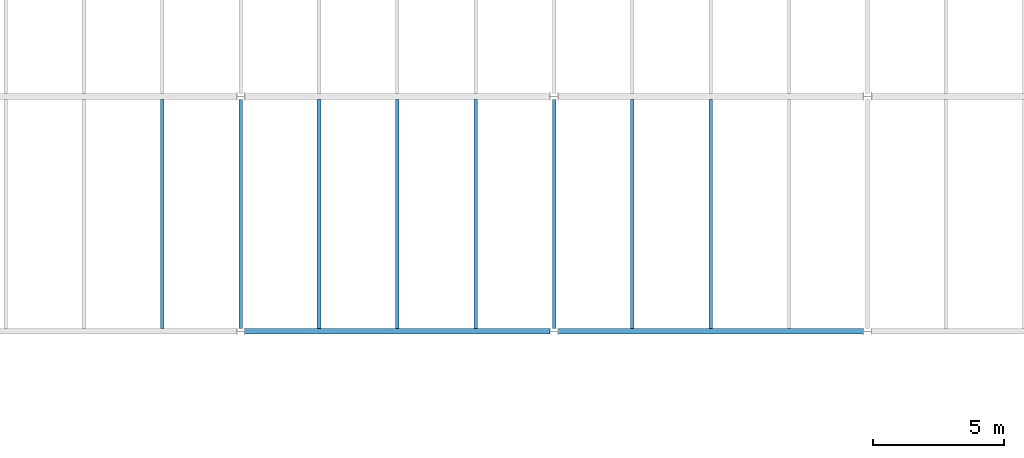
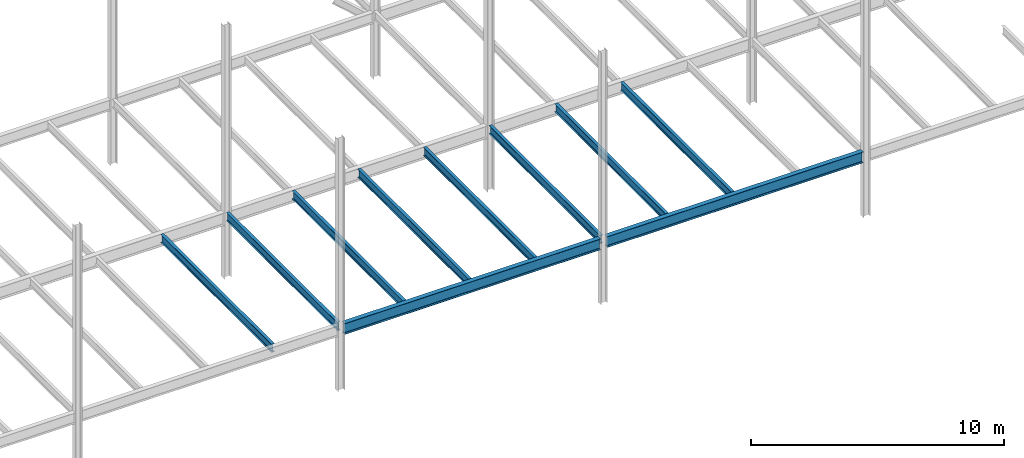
# One storey, part 19 of 26: 10 beams.
"""IFC2X3 building model written with IfcOpenShell, lengths in millimetres."""

from ifc_helpers import new_model, si_unit, origin, place, context, project, spatial, faceted_brep, material, element, save


model = new_model("IFC2X3")

# Units and contexts
context_of_model = context(None, 3, precision=1e-05, world=origin())
ifc_project = project(units=[si_unit("LENGTHUNIT", "METRE", prefix="MILLI")], contexts=[context_of_model])

# Building, storey
building = spatial("IfcBuilding", under=ifc_project, Name="Building", CompositionType="ELEMENT")
storey = spatial("IfcBuildingStorey", under=building, Name="FL4-FRM", CompositionType="ELEMENT")

# Beams
ifc_material_1 = material(Name="A992")
beam_1_placement = place(None, origin())
element("IfcBeam", 1, at=beam_1_placement, inside=storey, material=ifc_material_1, Name="B220", context=context_of_model, shape_type="Brep", body=[
    faceted_brep([(45070.0, 9104.5, 12974.0), (44930.0, 9104.5, 12974.0), (44930.0, 17885.5, 12974.0), (45070.0, 17885.5, 12974.0), (44930.0, 9104.5, 12982.8), (44930.0, 17885.5, 12982.8), (44986.6, 9104.5, 12982.8), (44986.6, 17885.5, 12982.8), (44989.2, 9104.5, 12983.1), (44989.2, 17885.5, 12983.1), (44991.7, 9104.5, 12984.2), (44991.7, 17885.5, 12984.2), (44993.8, 9104.5, 12985.8), (44993.8, 17885.5, 12985.8), (44995.4, 9104.5, 12987.9), (44995.4, 17885.5, 12987.9), (44996.5, 9104.5, 12990.4), (44996.5, 17885.5, 12990.4), (44996.8, 9104.5, 12993.0), (44996.8, 17885.5, 12993.0), (44996.8, 9104.5, 13354.0), (44996.8, 17885.5, 13354.0), (44996.5, 9104.5, 13356.6), (44996.5, 17885.5, 13356.6), (44995.4, 9104.5, 13359.1), (44995.4, 17885.5, 13359.1), (44993.8, 9104.5, 13361.2), (44993.8, 17885.5, 13361.2), (44991.7, 9104.5, 13362.8), (44991.7, 17885.5, 13362.8), (44989.2, 9104.5, 13363.9), (44989.2, 17885.5, 13363.9), (44986.6, 9104.5, 13364.2), (44986.6, 17885.5, 13364.2), (44930.0, 9104.5, 13364.2), (44930.0, 17885.5, 13364.2), (44930.0, 9104.5, 13373.0), (44930.0, 17885.5, 13373.0), (45070.0, 9104.5, 13373.0), (45070.0, 17885.5, 13373.0), (45070.0, 9104.5, 13364.2), (45070.0, 17885.5, 13364.2), (45013.4, 9104.5, 13364.2), (45013.4, 17885.5, 13364.2), (45010.8, 9104.5, 13363.9), (45010.8, 17885.5, 13363.9), (45008.3, 9104.5, 13362.8), (45008.3, 17885.5, 13362.8), (45006.2, 9104.5, 13361.2), (45006.2, 17885.5, 13361.2), (45004.6, 9104.5, 13359.1), (45004.6, 17885.5, 13359.1), (45003.5, 9104.5, 13356.6), (45003.5, 17885.5, 13356.6), (45003.2, 9104.5, 13354.0), (45003.2, 17885.5, 13354.0), (45003.2, 9104.5, 12993.0), (45003.2, 17885.5, 12993.0), (45003.5, 9104.5, 12990.4), (45003.5, 17885.5, 12990.4), (45004.6, 9104.5, 12987.9), (45004.6, 17885.5, 12987.9), (45006.2, 9104.5, 12985.8), (45006.2, 17885.5, 12985.8), (45008.3, 9104.5, 12984.2), (45008.3, 17885.5, 12984.2), (45010.8, 9104.5, 12983.1), (45010.8, 17885.5, 12983.1), (45013.4, 9104.5, 12982.8), (45013.4, 17885.5, 12982.8), (45070.0, 9104.5, 12982.8), (45070.0, 17885.5, 12982.8)], [[[0, 1, 2, 3]], [[1, 4, 5, 2]], [[4, 6, 7, 5]], [[6, 8, 9, 7]], [[8, 10, 11, 9]], [[10, 12, 13, 11]], [[12, 14, 15, 13]], [[14, 16, 17, 15]], [[16, 18, 19, 17]], [[18, 20, 21, 19]], [[20, 22, 23, 21]], [[22, 24, 25, 23]], [[24, 26, 27, 25]], [[26, 28, 29, 27]], [[28, 30, 31, 29]], [[30, 32, 33, 31]], [[32, 34, 35, 33]], [[34, 36, 37, 35]], [[36, 38, 39, 37]], [[38, 40, 41, 39]], [[40, 42, 43, 41]], [[42, 44, 45, 43]], [[44, 46, 47, 45]], [[46, 48, 49, 47]], [[48, 50, 51, 49]], [[50, 52, 53, 51]], [[52, 54, 55, 53]], [[54, 56, 57, 55]], [[56, 58, 59, 57]], [[58, 60, 61, 59]], [[60, 62, 63, 61]], [[62, 64, 65, 63]], [[64, 66, 67, 65]], [[66, 68, 69, 67]], [[68, 70, 71, 69]], [[70, 0, 3, 71]], [[0, 70, 68, 66, 64, 62, 60, 58, 56, 54, 52, 50, 48, 46, 44, 42, 40, 38, 36, 34, 32, 30, 28, 26, 24, 22, 20, 18, 16, 14, 12, 10, 8, 6, 4, 1]], [[3, 2, 5, 7, 9, 11, 13, 15, 17, 19, 21, 23, 25, 27, 29, 31, 33, 35, 37, 39, 41, 43, 45, 47, 49, 51, 53, 55, 57, 59, 61, 63, 65, 67, 69, 71]]]),
])
ifc_material_2 = material(Name="A992")
beam_2_placement = place(None, origin())
element("IfcBeam", 2, at=beam_2_placement, inside=storey, material=ifc_material_2, Name="B226", context=context_of_model, shape_type="Brep", body=[
    faceted_brep([(51070.0, 9104.5, 12974.0), (50930.0, 9104.5, 12974.0), (50930.0, 17885.5, 12974.0), (51070.0, 17885.5, 12974.0), (50930.0, 9104.5, 12982.8), (50930.0, 17885.5, 12982.8), (50986.6, 9104.5, 12982.8), (50986.6, 17885.5, 12982.8), (50989.2, 9104.5, 12983.1), (50989.2, 17885.5, 12983.1), (50991.7, 9104.5, 12984.2), (50991.7, 17885.5, 12984.2), (50993.8, 9104.5, 12985.8), (50993.8, 17885.5, 12985.8), (50995.4, 9104.5, 12987.9), (50995.4, 17885.5, 12987.9), (50996.5, 9104.5, 12990.4), (50996.5, 17885.5, 12990.4), (50996.8, 9104.5, 12993.0), (50996.8, 17885.5, 12993.0), (50996.8, 9104.5, 13354.0), (50996.8, 17885.5, 13354.0), (50996.5, 9104.5, 13356.6), (50996.5, 17885.5, 13356.6), (50995.4, 9104.5, 13359.1), (50995.4, 17885.5, 13359.1), (50993.8, 9104.5, 13361.2), (50993.8, 17885.5, 13361.2), (50991.7, 9104.5, 13362.8), (50991.7, 17885.5, 13362.8), (50989.2, 9104.5, 13363.9), (50989.2, 17885.5, 13363.9), (50986.6, 9104.5, 13364.2), (50986.6, 17885.5, 13364.2), (50930.0, 9104.5, 13364.2), (50930.0, 17885.5, 13364.2), (50930.0, 9104.5, 13373.0), (50930.0, 17885.5, 13373.0), (51070.0, 9104.5, 13373.0), (51070.0, 17885.5, 13373.0), (51070.0, 9104.5, 13364.2), (51070.0, 17885.5, 13364.2), (51013.4, 9104.5, 13364.2), (51013.4, 17885.5, 13364.2), (51010.8, 9104.5, 13363.9), (51010.8, 17885.5, 13363.9), (51008.3, 9104.5, 13362.8), (51008.3, 17885.5, 13362.8), (51006.2, 9104.5, 13361.2), (51006.2, 17885.5, 13361.2), (51004.6, 9104.5, 13359.1), (51004.6, 17885.5, 13359.1), (51003.5, 9104.5, 13356.6), (51003.5, 17885.5, 13356.6), (51003.2, 9104.5, 13354.0), (51003.2, 17885.5, 13354.0), (51003.2, 9104.5, 12993.0), (51003.2, 17885.5, 12993.0), (51003.5, 9104.5, 12990.4), (51003.5, 17885.5, 12990.4), (51004.6, 9104.5, 12987.9), (51004.6, 17885.5, 12987.9), (51006.2, 9104.5, 12985.8), (51006.2, 17885.5, 12985.8), (51008.3, 9104.5, 12984.2), (51008.3, 17885.5, 12984.2), (51010.8, 9104.5, 12983.1), (51010.8, 17885.5, 12983.1), (51013.4, 9104.5, 12982.8), (51013.4, 17885.5, 12982.8), (51070.0, 9104.5, 12982.8), (51070.0, 17885.5, 12982.8)], [[[0, 1, 2, 3]], [[1, 4, 5, 2]], [[4, 6, 7, 5]], [[6, 8, 9, 7]], [[8, 10, 11, 9]], [[10, 12, 13, 11]], [[12, 14, 15, 13]], [[14, 16, 17, 15]], [[16, 18, 19, 17]], [[18, 20, 21, 19]], [[20, 22, 23, 21]], [[22, 24, 25, 23]], [[24, 26, 27, 25]], [[26, 28, 29, 27]], [[28, 30, 31, 29]], [[30, 32, 33, 31]], [[32, 34, 35, 33]], [[34, 36, 37, 35]], [[36, 38, 39, 37]], [[38, 40, 41, 39]], [[40, 42, 43, 41]], [[42, 44, 45, 43]], [[44, 46, 47, 45]], [[46, 48, 49, 47]], [[48, 50, 51, 49]], [[50, 52, 53, 51]], [[52, 54, 55, 53]], [[54, 56, 57, 55]], [[56, 58, 59, 57]], [[58, 60, 61, 59]], [[60, 62, 63, 61]], [[62, 64, 65, 63]], [[64, 66, 67, 65]], [[66, 68, 69, 67]], [[68, 70, 71, 69]], [[70, 0, 3, 71]], [[0, 70, 68, 66, 64, 62, 60, 58, 56, 54, 52, 50, 48, 46, 44, 42, 40, 38, 36, 34, 32, 30, 28, 26, 24, 22, 20, 18, 16, 14, 12, 10, 8, 6, 4, 1]], [[3, 2, 5, 7, 9, 11, 13, 15, 17, 19, 21, 23, 25, 27, 29, 31, 33, 35, 37, 39, 41, 43, 45, 47, 49, 51, 53, 55, 57, 59, 61, 63, 65, 67, 69, 71]]]),
])
ifc_material_3 = material(Name="A992")
beam_3_placement = place(None, origin())
element("IfcBeam", 3, at=beam_3_placement, inside=storey, material=ifc_material_3, Name="B227", context=context_of_model, shape_type="Brep", body=[
    faceted_brep([(54070.0, 9104.5, 12974.0), (53930.0, 9104.5, 12974.0), (53930.0, 17885.5, 12974.0), (54070.0, 17885.5, 12974.0), (53930.0, 9104.5, 12982.8), (53930.0, 17885.5, 12982.8), (53986.6, 9104.5, 12982.8), (53986.6, 17885.5, 12982.8), (53989.2, 9104.5, 12983.1), (53989.2, 17885.5, 12983.1), (53991.7, 9104.5, 12984.2), (53991.7, 17885.5, 12984.2), (53993.8, 9104.5, 12985.8), (53993.8, 17885.5, 12985.8), (53995.4, 9104.5, 12987.9), (53995.4, 17885.5, 12987.9), (53996.5, 9104.5, 12990.4), (53996.5, 17885.5, 12990.4), (53996.8, 9104.5, 12993.0), (53996.8, 17885.5, 12993.0), (53996.8, 9104.5, 13354.0), (53996.8, 17885.5, 13354.0), (53996.5, 9104.5, 13356.6), (53996.5, 17885.5, 13356.6), (53995.4, 9104.5, 13359.1), (53995.4, 17885.5, 13359.1), (53993.8, 9104.5, 13361.2), (53993.8, 17885.5, 13361.2), (53991.7, 9104.5, 13362.8), (53991.7, 17885.5, 13362.8), (53989.2, 9104.5, 13363.9), (53989.2, 17885.5, 13363.9), (53986.6, 9104.5, 13364.2), (53986.6, 17885.5, 13364.2), (53930.0, 9104.5, 13364.2), (53930.0, 17885.5, 13364.2), (53930.0, 9104.5, 13373.0), (53930.0, 17885.5, 13373.0), (54070.0, 9104.5, 13373.0), (54070.0, 17885.5, 13373.0), (54070.0, 9104.5, 13364.2), (54070.0, 17885.5, 13364.2), (54013.4, 9104.5, 13364.2), (54013.4, 17885.5, 13364.2), (54010.8, 9104.5, 13363.9), (54010.8, 17885.5, 13363.9), (54008.3, 9104.5, 13362.8), (54008.3, 17885.5, 13362.8), (54006.2, 9104.5, 13361.2), (54006.2, 17885.5, 13361.2), (54004.6, 9104.5, 13359.1), (54004.6, 17885.5, 13359.1), (54003.5, 9104.5, 13356.6), (54003.5, 17885.5, 13356.6), (54003.2, 9104.5, 13354.0), (54003.2, 17885.5, 13354.0), (54003.2, 9104.5, 12993.0), (54003.2, 17885.5, 12993.0), (54003.5, 9104.5, 12990.4), (54003.5, 17885.5, 12990.4), (54004.6, 9104.5, 12987.9), (54004.6, 17885.5, 12987.9), (54006.2, 9104.5, 12985.8), (54006.2, 17885.5, 12985.8), (54008.3, 9104.5, 12984.2), (54008.3, 17885.5, 12984.2), (54010.8, 9104.5, 12983.1), (54010.8, 17885.5, 12983.1), (54013.4, 9104.5, 12982.8), (54013.4, 17885.5, 12982.8), (54070.0, 9104.5, 12982.8), (54070.0, 17885.5, 12982.8)], [[[0, 1, 2, 3]], [[1, 4, 5, 2]], [[4, 6, 7, 5]], [[6, 8, 9, 7]], [[8, 10, 11, 9]], [[10, 12, 13, 11]], [[12, 14, 15, 13]], [[14, 16, 17, 15]], [[16, 18, 19, 17]], [[18, 20, 21, 19]], [[20, 22, 23, 21]], [[22, 24, 25, 23]], [[24, 26, 27, 25]], [[26, 28, 29, 27]], [[28, 30, 31, 29]], [[30, 32, 33, 31]], [[32, 34, 35, 33]], [[34, 36, 37, 35]], [[36, 38, 39, 37]], [[38, 40, 41, 39]], [[40, 42, 43, 41]], [[42, 44, 45, 43]], [[44, 46, 47, 45]], [[46, 48, 49, 47]], [[48, 50, 51, 49]], [[50, 52, 53, 51]], [[52, 54, 55, 53]], [[54, 56, 57, 55]], [[56, 58, 59, 57]], [[58, 60, 61, 59]], [[60, 62, 63, 61]], [[62, 64, 65, 63]], [[64, 66, 67, 65]], [[66, 68, 69, 67]], [[68, 70, 71, 69]], [[70, 0, 3, 71]], [[0, 70, 68, 66, 64, 62, 60, 58, 56, 54, 52, 50, 48, 46, 44, 42, 40, 38, 36, 34, 32, 30, 28, 26, 24, 22, 20, 18, 16, 14, 12, 10, 8, 6, 4, 1]], [[3, 2, 5, 7, 9, 11, 13, 15, 17, 19, 21, 23, 25, 27, 29, 31, 33, 35, 37, 39, 41, 43, 45, 47, 49, 51, 53, 55, 57, 59, 61, 63, 65, 67, 69, 71]]]),
])
ifc_material_4 = material(Name="A992")
beam_4_placement = place(None, origin())
element("IfcBeam", 4, at=beam_4_placement, inside=storey, material=ifc_material_4, Name="B228", context=context_of_model, shape_type="Brep", body=[
    faceted_brep([(57070.0, 9104.5, 12974.0), (56930.0, 9104.5, 12974.0), (56930.0, 17885.5, 12974.0), (57070.0, 17885.5, 12974.0), (56930.0, 9104.5, 12982.8), (56930.0, 17885.5, 12982.8), (56986.6, 9104.5, 12982.8), (56986.6, 17885.5, 12982.8), (56989.2, 9104.5, 12983.1), (56989.2, 17885.5, 12983.1), (56991.7, 9104.5, 12984.2), (56991.7, 17885.5, 12984.2), (56993.8, 9104.5, 12985.8), (56993.8, 17885.5, 12985.8), (56995.4, 9104.5, 12987.9), (56995.4, 17885.5, 12987.9), (56996.5, 9104.5, 12990.4), (56996.5, 17885.5, 12990.4), (56996.8, 9104.5, 12993.0), (56996.8, 17885.5, 12993.0), (56996.8, 9104.5, 13354.0), (56996.8, 17885.5, 13354.0), (56996.5, 9104.5, 13356.6), (56996.5, 17885.5, 13356.6), (56995.4, 9104.5, 13359.1), (56995.4, 17885.5, 13359.1), (56993.8, 9104.5, 13361.2), (56993.8, 17885.5, 13361.2), (56991.7, 9104.5, 13362.8), (56991.7, 17885.5, 13362.8), (56989.2, 9104.5, 13363.9), (56989.2, 17885.5, 13363.9), (56986.6, 9104.5, 13364.2), (56986.6, 17885.5, 13364.2), (56930.0, 9104.5, 13364.2), (56930.0, 17885.5, 13364.2), (56930.0, 9104.5, 13373.0), (56930.0, 17885.5, 13373.0), (57070.0, 9104.5, 13373.0), (57070.0, 17885.5, 13373.0), (57070.0, 9104.5, 13364.2), (57070.0, 17885.5, 13364.2), (57013.4, 9104.5, 13364.2), (57013.4, 17885.5, 13364.2), (57010.8, 9104.5, 13363.9), (57010.8, 17885.5, 13363.9), (57008.3, 9104.5, 13362.8), (57008.3, 17885.5, 13362.8), (57006.2, 9104.5, 13361.2), (57006.2, 17885.5, 13361.2), (57004.6, 9104.5, 13359.1), (57004.6, 17885.5, 13359.1), (57003.5, 9104.5, 13356.6), (57003.5, 17885.5, 13356.6), (57003.2, 9104.5, 13354.0), (57003.2, 17885.5, 13354.0), (57003.2, 9104.5, 12993.0), (57003.2, 17885.5, 12993.0), (57003.5, 9104.5, 12990.4), (57003.5, 17885.5, 12990.4), (57004.6, 9104.5, 12987.9), (57004.6, 17885.5, 12987.9), (57006.2, 9104.5, 12985.8), (57006.2, 17885.5, 12985.8), (57008.3, 9104.5, 12984.2), (57008.3, 17885.5, 12984.2), (57010.8, 9104.5, 12983.1), (57010.8, 17885.5, 12983.1), (57013.4, 9104.5, 12982.8), (57013.4, 17885.5, 12982.8), (57070.0, 9104.5, 12982.8), (57070.0, 17885.5, 12982.8)], [[[0, 1, 2, 3]], [[1, 4, 5, 2]], [[4, 6, 7, 5]], [[6, 8, 9, 7]], [[8, 10, 11, 9]], [[10, 12, 13, 11]], [[12, 14, 15, 13]], [[14, 16, 17, 15]], [[16, 18, 19, 17]], [[18, 20, 21, 19]], [[20, 22, 23, 21]], [[22, 24, 25, 23]], [[24, 26, 27, 25]], [[26, 28, 29, 27]], [[28, 30, 31, 29]], [[30, 32, 33, 31]], [[32, 34, 35, 33]], [[34, 36, 37, 35]], [[36, 38, 39, 37]], [[38, 40, 41, 39]], [[40, 42, 43, 41]], [[42, 44, 45, 43]], [[44, 46, 47, 45]], [[46, 48, 49, 47]], [[48, 50, 51, 49]], [[50, 52, 53, 51]], [[52, 54, 55, 53]], [[54, 56, 57, 55]], [[56, 58, 59, 57]], [[58, 60, 61, 59]], [[60, 62, 63, 61]], [[62, 64, 65, 63]], [[64, 66, 67, 65]], [[66, 68, 69, 67]], [[68, 70, 71, 69]], [[70, 0, 3, 71]], [[0, 70, 68, 66, 64, 62, 60, 58, 56, 54, 52, 50, 48, 46, 44, 42, 40, 38, 36, 34, 32, 30, 28, 26, 24, 22, 20, 18, 16, 14, 12, 10, 8, 6, 4, 1]], [[3, 2, 5, 7, 9, 11, 13, 15, 17, 19, 21, 23, 25, 27, 29, 31, 33, 35, 37, 39, 41, 43, 45, 47, 49, 51, 53, 55, 57, 59, 61, 63, 65, 67, 69, 71]]]),
])
ifc_material_5 = material(Name="A992")
beam_5_placement = place(None, origin())
element("IfcBeam", 5, at=beam_5_placement, inside=storey, material=ifc_material_5, Name="B229", context=context_of_model, shape_type="Brep", body=[
    faceted_brep([(48070.0, 9104.5, 12974.0), (47930.0, 9104.5, 12974.0), (47930.0, 17885.5, 12974.0), (48070.0, 17885.5, 12974.0), (47930.0, 9104.5, 12982.8), (47930.0, 17885.5, 12982.8), (47986.6, 9104.5, 12982.8), (47986.6, 17885.5, 12982.8), (47989.2, 9104.5, 12983.1), (47989.2, 17885.5, 12983.1), (47991.7, 9104.5, 12984.2), (47991.7, 17885.5, 12984.2), (47993.8, 9104.5, 12985.8), (47993.8, 17885.5, 12985.8), (47995.4, 9104.5, 12987.9), (47995.4, 17885.5, 12987.9), (47996.5, 9104.5, 12990.4), (47996.5, 17885.5, 12990.4), (47996.8, 9104.5, 12993.0), (47996.8, 17885.5, 12993.0), (47996.8, 9104.5, 13354.0), (47996.8, 17885.5, 13354.0), (47996.5, 9104.5, 13356.6), (47996.5, 17885.5, 13356.6), (47995.4, 9104.5, 13359.1), (47995.4, 17885.5, 13359.1), (47993.8, 9104.5, 13361.2), (47993.8, 17885.5, 13361.2), (47991.7, 9104.5, 13362.8), (47991.7, 17885.5, 13362.8), (47989.2, 9104.5, 13363.9), (47989.2, 17885.5, 13363.9), (47986.6, 9104.5, 13364.2), (47986.6, 17885.5, 13364.2), (47930.0, 9104.5, 13364.2), (47930.0, 17885.5, 13364.2), (47930.0, 9104.5, 13373.0), (47930.0, 17885.5, 13373.0), (48070.0, 9104.5, 13373.0), (48070.0, 17885.5, 13373.0), (48070.0, 9104.5, 13364.2), (48070.0, 17885.5, 13364.2), (48013.4, 9104.5, 13364.2), (48013.4, 17885.5, 13364.2), (48010.8, 9104.5, 13363.9), (48010.8, 17885.5, 13363.9), (48008.3, 9104.5, 13362.8), (48008.3, 17885.5, 13362.8), (48006.2, 9104.5, 13361.2), (48006.2, 17885.5, 13361.2), (48004.6, 9104.5, 13359.1), (48004.6, 17885.5, 13359.1), (48003.5, 9104.5, 13356.6), (48003.5, 17885.5, 13356.6), (48003.2, 9104.5, 13354.0), (48003.2, 17885.5, 13354.0), (48003.2, 9104.5, 12993.0), (48003.2, 17885.5, 12993.0), (48003.5, 9104.5, 12990.4), (48003.5, 17885.5, 12990.4), (48004.6, 9104.5, 12987.9), (48004.6, 17885.5, 12987.9), (48006.2, 9104.5, 12985.8), (48006.2, 17885.5, 12985.8), (48008.3, 9104.5, 12984.2), (48008.3, 17885.5, 12984.2), (48010.8, 9104.5, 12983.1), (48010.8, 17885.5, 12983.1), (48013.4, 9104.5, 12982.8), (48013.4, 17885.5, 12982.8), (48070.0, 9104.5, 12982.8), (48070.0, 17885.5, 12982.8)], [[[0, 1, 2, 3]], [[1, 4, 5, 2]], [[4, 6, 7, 5]], [[6, 8, 9, 7]], [[8, 10, 11, 9]], [[10, 12, 13, 11]], [[12, 14, 15, 13]], [[14, 16, 17, 15]], [[16, 18, 19, 17]], [[18, 20, 21, 19]], [[20, 22, 23, 21]], [[22, 24, 25, 23]], [[24, 26, 27, 25]], [[26, 28, 29, 27]], [[28, 30, 31, 29]], [[30, 32, 33, 31]], [[32, 34, 35, 33]], [[34, 36, 37, 35]], [[36, 38, 39, 37]], [[38, 40, 41, 39]], [[40, 42, 43, 41]], [[42, 44, 45, 43]], [[44, 46, 47, 45]], [[46, 48, 49, 47]], [[48, 50, 51, 49]], [[50, 52, 53, 51]], [[52, 54, 55, 53]], [[54, 56, 57, 55]], [[56, 58, 59, 57]], [[58, 60, 61, 59]], [[60, 62, 63, 61]], [[62, 64, 65, 63]], [[64, 66, 67, 65]], [[66, 68, 69, 67]], [[68, 70, 71, 69]], [[70, 0, 3, 71]], [[0, 70, 68, 66, 64, 62, 60, 58, 56, 54, 52, 50, 48, 46, 44, 42, 40, 38, 36, 34, 32, 30, 28, 26, 24, 22, 20, 18, 16, 14, 12, 10, 8, 6, 4, 1]], [[3, 2, 5, 7, 9, 11, 13, 15, 17, 19, 21, 23, 25, 27, 29, 31, 33, 35, 37, 39, 41, 43, 45, 47, 49, 51, 53, 55, 57, 59, 61, 63, 65, 67, 69, 71]]]),
])
ifc_material_6 = material(Name="A992")
beam_6_placement = place(None, origin())
element("IfcBeam", 6, at=beam_6_placement, inside=storey, material=ifc_material_6, Name="Column394", context=context_of_model, shape_type="Brep", body=[
    faceted_brep([(48153.0, 8895.5, 12845.0), (48153.0, 9104.5, 12845.0), (59847.0, 9104.5, 12845.0), (59847.0, 8895.5, 12845.0), (48153.0, 9104.5, 12858.3), (59847.0, 9104.5, 12858.3), (48153.0, 9017.45, 12858.3), (59847.0, 9017.45, 12858.3), (48153.0, 9014.16, 12858.7), (59847.0, 9014.16, 12858.7), (48153.0, 9011.1, 12860.0), (59847.0, 9011.1, 12860.0), (48153.0, 9008.47, 12862.0), (59847.0, 9008.47, 12862.0), (48153.0, 9006.45, 12864.7), (59847.0, 9006.45, 12864.7), (48153.0, 9005.18, 12867.7), (59847.0, 9005.18, 12867.7), (48153.0, 9004.75, 12871.0), (59847.0, 9004.75, 12871.0), (48153.0, 9004.75, 13347.0), (59847.0, 9004.75, 13347.0), (48153.0, 9005.18, 13350.3), (59847.0, 9005.18, 13350.3), (48153.0, 9006.45, 13353.3), (59847.0, 9006.45, 13353.3), (48153.0, 9008.47, 13356.0), (59847.0, 9008.47, 13356.0), (48153.0, 9011.1, 13358.0), (59847.0, 9011.1, 13358.0), (48153.0, 9014.16, 13359.3), (59847.0, 9014.16, 13359.3), (48153.0, 9017.45, 13359.7), (59847.0, 9017.45, 13359.7), (48153.0, 9104.5, 13359.7), (59847.0, 9104.5, 13359.7), (48153.0, 9104.5, 13373.0), (59847.0, 9104.5, 13373.0), (48153.0, 8895.5, 13373.0), (59847.0, 8895.5, 13373.0), (48153.0, 8895.5, 13359.7), (59847.0, 8895.5, 13359.7), (48153.0, 8982.55, 13359.7), (59847.0, 8982.55, 13359.7), (48153.0, 8985.84, 13359.3), (59847.0, 8985.84, 13359.3), (48153.0, 8988.9, 13358.0), (59847.0, 8988.9, 13358.0), (48153.0, 8991.53, 13356.0), (59847.0, 8991.53, 13356.0), (48153.0, 8993.55, 13353.3), (59847.0, 8993.55, 13353.3), (48153.0, 8994.82, 13350.3), (59847.0, 8994.82, 13350.3), (48153.0, 8995.25, 13347.0), (59847.0, 8995.25, 13347.0), (48153.0, 8995.25, 12871.0), (59847.0, 8995.25, 12871.0), (48153.0, 8994.82, 12867.7), (59847.0, 8994.82, 12867.7), (48153.0, 8993.55, 12864.7), (59847.0, 8993.55, 12864.7), (48153.0, 8991.53, 12862.0), (59847.0, 8991.53, 12862.0), (48153.0, 8988.9, 12860.0), (59847.0, 8988.9, 12860.0), (48153.0, 8985.84, 12858.7), (59847.0, 8985.84, 12858.7), (48153.0, 8982.55, 12858.3), (59847.0, 8982.55, 12858.3), (48153.0, 8895.5, 12858.3), (59847.0, 8895.5, 12858.3)], [[[0, 1, 2, 3]], [[1, 4, 5, 2]], [[4, 6, 7, 5]], [[6, 8, 9, 7]], [[8, 10, 11, 9]], [[10, 12, 13, 11]], [[12, 14, 15, 13]], [[14, 16, 17, 15]], [[16, 18, 19, 17]], [[18, 20, 21, 19]], [[20, 22, 23, 21]], [[22, 24, 25, 23]], [[24, 26, 27, 25]], [[26, 28, 29, 27]], [[28, 30, 31, 29]], [[30, 32, 33, 31]], [[32, 34, 35, 33]], [[34, 36, 37, 35]], [[36, 38, 39, 37]], [[38, 40, 41, 39]], [[40, 42, 43, 41]], [[42, 44, 45, 43]], [[44, 46, 47, 45]], [[46, 48, 49, 47]], [[48, 50, 51, 49]], [[50, 52, 53, 51]], [[52, 54, 55, 53]], [[54, 56, 57, 55]], [[56, 58, 59, 57]], [[58, 60, 61, 59]], [[60, 62, 63, 61]], [[62, 64, 65, 63]], [[64, 66, 67, 65]], [[66, 68, 69, 67]], [[68, 70, 71, 69]], [[70, 0, 3, 71]], [[0, 70, 68, 66, 64, 62, 60, 58, 56, 54, 52, 50, 48, 46, 44, 42, 40, 38, 36, 34, 32, 30, 28, 26, 24, 22, 20, 18, 16, 14, 12, 10, 8, 6, 4, 1]], [[3, 2, 5, 7, 9, 11, 13, 15, 17, 19, 21, 23, 25, 27, 29, 31, 33, 35, 37, 39, 41, 43, 45, 47, 49, 51, 53, 55, 57, 59, 61, 63, 65, 67, 69, 71]]]),
])
ifc_material_7 = material(Name="A992")
beam_7_placement = place(None, origin())
element("IfcBeam", 7, at=beam_7_placement, inside=storey, material=ifc_material_7, Name="B234", context=context_of_model, shape_type="Brep", body=[
    faceted_brep([(63070.0, 9104.5, 12974.0), (62930.0, 9104.5, 12974.0), (62930.0, 17885.5, 12974.0), (63070.0, 17885.5, 12974.0), (62930.0, 9104.5, 12982.8), (62930.0, 17885.5, 12982.8), (62986.6, 9104.5, 12982.8), (62986.6, 17885.5, 12982.8), (62989.2, 9104.5, 12983.1), (62989.2, 17885.5, 12983.1), (62991.7, 9104.5, 12984.2), (62991.7, 17885.5, 12984.2), (62993.8, 9104.5, 12985.8), (62993.8, 17885.5, 12985.8), (62995.4, 9104.5, 12987.9), (62995.4, 17885.5, 12987.9), (62996.5, 9104.5, 12990.4), (62996.5, 17885.5, 12990.4), (62996.8, 9104.5, 12993.0), (62996.8, 17885.5, 12993.0), (62996.8, 9104.5, 13354.0), (62996.8, 17885.5, 13354.0), (62996.5, 9104.5, 13356.6), (62996.5, 17885.5, 13356.6), (62995.4, 9104.5, 13359.1), (62995.4, 17885.5, 13359.1), (62993.8, 9104.5, 13361.2), (62993.8, 17885.5, 13361.2), (62991.7, 9104.5, 13362.8), (62991.7, 17885.5, 13362.8), (62989.2, 9104.5, 13363.9), (62989.2, 17885.5, 13363.9), (62986.6, 9104.5, 13364.2), (62986.6, 17885.5, 13364.2), (62930.0, 9104.5, 13364.2), (62930.0, 17885.5, 13364.2), (62930.0, 9104.5, 13373.0), (62930.0, 17885.5, 13373.0), (63070.0, 9104.5, 13373.0), (63070.0, 17885.5, 13373.0), (63070.0, 9104.5, 13364.2), (63070.0, 17885.5, 13364.2), (63013.4, 9104.5, 13364.2), (63013.4, 17885.5, 13364.2), (63010.8, 9104.5, 13363.9), (63010.8, 17885.5, 13363.9), (63008.3, 9104.5, 13362.8), (63008.3, 17885.5, 13362.8), (63006.2, 9104.5, 13361.2), (63006.2, 17885.5, 13361.2), (63004.6, 9104.5, 13359.1), (63004.6, 17885.5, 13359.1), (63003.5, 9104.5, 13356.6), (63003.5, 17885.5, 13356.6), (63003.2, 9104.5, 13354.0), (63003.2, 17885.5, 13354.0), (63003.2, 9104.5, 12993.0), (63003.2, 17885.5, 12993.0), (63003.5, 9104.5, 12990.4), (63003.5, 17885.5, 12990.4), (63004.6, 9104.5, 12987.9), (63004.6, 17885.5, 12987.9), (63006.2, 9104.5, 12985.8), (63006.2, 17885.5, 12985.8), (63008.3, 9104.5, 12984.2), (63008.3, 17885.5, 12984.2), (63010.8, 9104.5, 12983.1), (63010.8, 17885.5, 12983.1), (63013.4, 9104.5, 12982.8), (63013.4, 17885.5, 12982.8), (63070.0, 9104.5, 12982.8), (63070.0, 17885.5, 12982.8)], [[[0, 1, 2, 3]], [[1, 4, 5, 2]], [[4, 6, 7, 5]], [[6, 8, 9, 7]], [[8, 10, 11, 9]], [[10, 12, 13, 11]], [[12, 14, 15, 13]], [[14, 16, 17, 15]], [[16, 18, 19, 17]], [[18, 20, 21, 19]], [[20, 22, 23, 21]], [[22, 24, 25, 23]], [[24, 26, 27, 25]], [[26, 28, 29, 27]], [[28, 30, 31, 29]], [[30, 32, 33, 31]], [[32, 34, 35, 33]], [[34, 36, 37, 35]], [[36, 38, 39, 37]], [[38, 40, 41, 39]], [[40, 42, 43, 41]], [[42, 44, 45, 43]], [[44, 46, 47, 45]], [[46, 48, 49, 47]], [[48, 50, 51, 49]], [[50, 52, 53, 51]], [[52, 54, 55, 53]], [[54, 56, 57, 55]], [[56, 58, 59, 57]], [[58, 60, 61, 59]], [[60, 62, 63, 61]], [[62, 64, 65, 63]], [[64, 66, 67, 65]], [[66, 68, 69, 67]], [[68, 70, 71, 69]], [[70, 0, 3, 71]], [[0, 70, 68, 66, 64, 62, 60, 58, 56, 54, 52, 50, 48, 46, 44, 42, 40, 38, 36, 34, 32, 30, 28, 26, 24, 22, 20, 18, 16, 14, 12, 10, 8, 6, 4, 1]], [[3, 2, 5, 7, 9, 11, 13, 15, 17, 19, 21, 23, 25, 27, 29, 31, 33, 35, 37, 39, 41, 43, 45, 47, 49, 51, 53, 55, 57, 59, 61, 63, 65, 67, 69, 71]]]),
])
ifc_material_8 = material(Name="A992")
beam_8_placement = place(None, origin())
element("IfcBeam", 8, at=beam_8_placement, inside=storey, material=ifc_material_8, Name="B235", context=context_of_model, shape_type="Brep", body=[
    faceted_brep([(66070.0, 9104.5, 12974.0), (65930.0, 9104.5, 12974.0), (65930.0, 17885.5, 12974.0), (66070.0, 17885.5, 12974.0), (65930.0, 9104.5, 12982.8), (65930.0, 17885.5, 12982.8), (65986.6, 9104.5, 12982.8), (65986.6, 17885.5, 12982.8), (65989.2, 9104.5, 12983.1), (65989.2, 17885.5, 12983.1), (65991.7, 9104.5, 12984.2), (65991.7, 17885.5, 12984.2), (65993.8, 9104.5, 12985.8), (65993.8, 17885.5, 12985.8), (65995.4, 9104.5, 12987.9), (65995.4, 17885.5, 12987.9), (65996.5, 9104.5, 12990.4), (65996.5, 17885.5, 12990.4), (65996.8, 9104.5, 12993.0), (65996.8, 17885.5, 12993.0), (65996.8, 9104.5, 13354.0), (65996.8, 17885.5, 13354.0), (65996.5, 9104.5, 13356.6), (65996.5, 17885.5, 13356.6), (65995.4, 9104.5, 13359.1), (65995.4, 17885.5, 13359.1), (65993.8, 9104.5, 13361.2), (65993.8, 17885.5, 13361.2), (65991.7, 9104.5, 13362.8), (65991.7, 17885.5, 13362.8), (65989.2, 9104.5, 13363.9), (65989.2, 17885.5, 13363.9), (65986.6, 9104.5, 13364.2), (65986.6, 17885.5, 13364.2), (65930.0, 9104.5, 13364.2), (65930.0, 17885.5, 13364.2), (65930.0, 9104.5, 13373.0), (65930.0, 17885.5, 13373.0), (66070.0, 9104.5, 13373.0), (66070.0, 17885.5, 13373.0), (66070.0, 9104.5, 13364.2), (66070.0, 17885.5, 13364.2), (66013.4, 9104.5, 13364.2), (66013.4, 17885.5, 13364.2), (66010.8, 9104.5, 13363.9), (66010.8, 17885.5, 13363.9), (66008.3, 9104.5, 13362.8), (66008.3, 17885.5, 13362.8), (66006.2, 9104.5, 13361.2), (66006.2, 17885.5, 13361.2), (66004.6, 9104.5, 13359.1), (66004.6, 17885.5, 13359.1), (66003.5, 9104.5, 13356.6), (66003.5, 17885.5, 13356.6), (66003.2, 9104.5, 13354.0), (66003.2, 17885.5, 13354.0), (66003.2, 9104.5, 12993.0), (66003.2, 17885.5, 12993.0), (66003.5, 9104.5, 12990.4), (66003.5, 17885.5, 12990.4), (66004.6, 9104.5, 12987.9), (66004.6, 17885.5, 12987.9), (66006.2, 9104.5, 12985.8), (66006.2, 17885.5, 12985.8), (66008.3, 9104.5, 12984.2), (66008.3, 17885.5, 12984.2), (66010.8, 9104.5, 12983.1), (66010.8, 17885.5, 12983.1), (66013.4, 9104.5, 12982.8), (66013.4, 17885.5, 12982.8), (66070.0, 9104.5, 12982.8), (66070.0, 17885.5, 12982.8)], [[[0, 1, 2, 3]], [[1, 4, 5, 2]], [[4, 6, 7, 5]], [[6, 8, 9, 7]], [[8, 10, 11, 9]], [[10, 12, 13, 11]], [[12, 14, 15, 13]], [[14, 16, 17, 15]], [[16, 18, 19, 17]], [[18, 20, 21, 19]], [[20, 22, 23, 21]], [[22, 24, 25, 23]], [[24, 26, 27, 25]], [[26, 28, 29, 27]], [[28, 30, 31, 29]], [[30, 32, 33, 31]], [[32, 34, 35, 33]], [[34, 36, 37, 35]], [[36, 38, 39, 37]], [[38, 40, 41, 39]], [[40, 42, 43, 41]], [[42, 44, 45, 43]], [[44, 46, 47, 45]], [[46, 48, 49, 47]], [[48, 50, 51, 49]], [[50, 52, 53, 51]], [[52, 54, 55, 53]], [[54, 56, 57, 55]], [[56, 58, 59, 57]], [[58, 60, 61, 59]], [[60, 62, 63, 61]], [[62, 64, 65, 63]], [[64, 66, 67, 65]], [[66, 68, 69, 67]], [[68, 70, 71, 69]], [[70, 0, 3, 71]], [[0, 70, 68, 66, 64, 62, 60, 58, 56, 54, 52, 50, 48, 46, 44, 42, 40, 38, 36, 34, 32, 30, 28, 26, 24, 22, 20, 18, 16, 14, 12, 10, 8, 6, 4, 1]], [[3, 2, 5, 7, 9, 11, 13, 15, 17, 19, 21, 23, 25, 27, 29, 31, 33, 35, 37, 39, 41, 43, 45, 47, 49, 51, 53, 55, 57, 59, 61, 63, 65, 67, 69, 71]]]),
])
ifc_material_9 = material(Name="A992")
beam_9_placement = place(None, origin())
element("IfcBeam", 9, at=beam_9_placement, inside=storey, material=ifc_material_9, Name="B237", context=context_of_model, shape_type="Brep", body=[
    faceted_brep([(60070.0, 9104.5, 12974.0), (59930.0, 9104.5, 12974.0), (59930.0, 17885.5, 12974.0), (60070.0, 17885.5, 12974.0), (59930.0, 9104.5, 12982.8), (59930.0, 17885.5, 12982.8), (59986.6, 9104.5, 12982.8), (59986.6, 17885.5, 12982.8), (59989.2, 9104.5, 12983.1), (59989.2, 17885.5, 12983.1), (59991.7, 9104.5, 12984.2), (59991.7, 17885.5, 12984.2), (59993.8, 9104.5, 12985.8), (59993.8, 17885.5, 12985.8), (59995.4, 9104.5, 12987.9), (59995.4, 17885.5, 12987.9), (59996.5, 9104.5, 12990.4), (59996.5, 17885.5, 12990.4), (59996.8, 9104.5, 12993.0), (59996.8, 17885.5, 12993.0), (59996.8, 9104.5, 13354.0), (59996.8, 17885.5, 13354.0), (59996.5, 9104.5, 13356.6), (59996.5, 17885.5, 13356.6), (59995.4, 9104.5, 13359.1), (59995.4, 17885.5, 13359.1), (59993.8, 9104.5, 13361.2), (59993.8, 17885.5, 13361.2), (59991.7, 9104.5, 13362.8), (59991.7, 17885.5, 13362.8), (59989.2, 9104.5, 13363.9), (59989.2, 17885.5, 13363.9), (59986.6, 9104.5, 13364.2), (59986.6, 17885.5, 13364.2), (59930.0, 9104.5, 13364.2), (59930.0, 17885.5, 13364.2), (59930.0, 9104.5, 13373.0), (59930.0, 17885.5, 13373.0), (60070.0, 9104.5, 13373.0), (60070.0, 17885.5, 13373.0), (60070.0, 9104.5, 13364.2), (60070.0, 17885.5, 13364.2), (60013.4, 9104.5, 13364.2), (60013.4, 17885.5, 13364.2), (60010.8, 9104.5, 13363.9), (60010.8, 17885.5, 13363.9), (60008.3, 9104.5, 13362.8), (60008.3, 17885.5, 13362.8), (60006.2, 9104.5, 13361.2), (60006.2, 17885.5, 13361.2), (60004.6, 9104.5, 13359.1), (60004.6, 17885.5, 13359.1), (60003.5, 9104.5, 13356.6), (60003.5, 17885.5, 13356.6), (60003.2, 9104.5, 13354.0), (60003.2, 17885.5, 13354.0), (60003.2, 9104.5, 12993.0), (60003.2, 17885.5, 12993.0), (60003.5, 9104.5, 12990.4), (60003.5, 17885.5, 12990.4), (60004.6, 9104.5, 12987.9), (60004.6, 17885.5, 12987.9), (60006.2, 9104.5, 12985.8), (60006.2, 17885.5, 12985.8), (60008.3, 9104.5, 12984.2), (60008.3, 17885.5, 12984.2), (60010.8, 9104.5, 12983.1), (60010.8, 17885.5, 12983.1), (60013.4, 9104.5, 12982.8), (60013.4, 17885.5, 12982.8), (60070.0, 9104.5, 12982.8), (60070.0, 17885.5, 12982.8)], [[[0, 1, 2, 3]], [[1, 4, 5, 2]], [[4, 6, 7, 5]], [[6, 8, 9, 7]], [[8, 10, 11, 9]], [[10, 12, 13, 11]], [[12, 14, 15, 13]], [[14, 16, 17, 15]], [[16, 18, 19, 17]], [[18, 20, 21, 19]], [[20, 22, 23, 21]], [[22, 24, 25, 23]], [[24, 26, 27, 25]], [[26, 28, 29, 27]], [[28, 30, 31, 29]], [[30, 32, 33, 31]], [[32, 34, 35, 33]], [[34, 36, 37, 35]], [[36, 38, 39, 37]], [[38, 40, 41, 39]], [[40, 42, 43, 41]], [[42, 44, 45, 43]], [[44, 46, 47, 45]], [[46, 48, 49, 47]], [[48, 50, 51, 49]], [[50, 52, 53, 51]], [[52, 54, 55, 53]], [[54, 56, 57, 55]], [[56, 58, 59, 57]], [[58, 60, 61, 59]], [[60, 62, 63, 61]], [[62, 64, 65, 63]], [[64, 66, 67, 65]], [[66, 68, 69, 67]], [[68, 70, 71, 69]], [[70, 0, 3, 71]], [[0, 70, 68, 66, 64, 62, 60, 58, 56, 54, 52, 50, 48, 46, 44, 42, 40, 38, 36, 34, 32, 30, 28, 26, 24, 22, 20, 18, 16, 14, 12, 10, 8, 6, 4, 1]], [[3, 2, 5, 7, 9, 11, 13, 15, 17, 19, 21, 23, 25, 27, 29, 31, 33, 35, 37, 39, 41, 43, 45, 47, 49, 51, 53, 55, 57, 59, 61, 63, 65, 67, 69, 71]]]),
])
ifc_material_10 = material(Name="A992")
beam_10_placement = place(None, origin())
element("IfcBeam", 10, at=beam_10_placement, inside=storey, material=ifc_material_10, Name="Column397", context=context_of_model, shape_type="Brep", body=[
    faceted_brep([(60153.0, 8895.5, 12845.0), (60153.0, 9104.5, 12845.0), (71847.0, 9104.5, 12845.0), (71847.0, 8895.5, 12845.0), (60153.0, 9104.5, 12858.3), (71847.0, 9104.5, 12858.3), (60153.0, 9017.45, 12858.3), (71847.0, 9017.45, 12858.3), (60153.0, 9014.16, 12858.7), (71847.0, 9014.16, 12858.7), (60153.0, 9011.1, 12860.0), (71847.0, 9011.1, 12860.0), (60153.0, 9008.47, 12862.0), (71847.0, 9008.47, 12862.0), (60153.0, 9006.45, 12864.7), (71847.0, 9006.45, 12864.7), (60153.0, 9005.18, 12867.7), (71847.0, 9005.18, 12867.7), (60153.0, 9004.75, 12871.0), (71847.0, 9004.75, 12871.0), (60153.0, 9004.75, 13347.0), (71847.0, 9004.75, 13347.0), (60153.0, 9005.18, 13350.3), (71847.0, 9005.18, 13350.3), (60153.0, 9006.45, 13353.3), (71847.0, 9006.45, 13353.3), (60153.0, 9008.47, 13356.0), (71847.0, 9008.47, 13356.0), (60153.0, 9011.1, 13358.0), (71847.0, 9011.1, 13358.0), (60153.0, 9014.16, 13359.3), (71847.0, 9014.16, 13359.3), (60153.0, 9017.45, 13359.7), (71847.0, 9017.45, 13359.7), (60153.0, 9104.5, 13359.7), (71847.0, 9104.5, 13359.7), (60153.0, 9104.5, 13373.0), (71847.0, 9104.5, 13373.0), (60153.0, 8895.5, 13373.0), (71847.0, 8895.5, 13373.0), (60153.0, 8895.5, 13359.7), (71847.0, 8895.5, 13359.7), (60153.0, 8982.55, 13359.7), (71847.0, 8982.55, 13359.7), (60153.0, 8985.84, 13359.3), (71847.0, 8985.84, 13359.3), (60153.0, 8988.9, 13358.0), (71847.0, 8988.9, 13358.0), (60153.0, 8991.53, 13356.0), (71847.0, 8991.53, 13356.0), (60153.0, 8993.55, 13353.3), (71847.0, 8993.55, 13353.3), (60153.0, 8994.82, 13350.3), (71847.0, 8994.82, 13350.3), (60153.0, 8995.25, 13347.0), (71847.0, 8995.25, 13347.0), (60153.0, 8995.25, 12871.0), (71847.0, 8995.25, 12871.0), (60153.0, 8994.82, 12867.7), (71847.0, 8994.82, 12867.7), (60153.0, 8993.55, 12864.7), (71847.0, 8993.55, 12864.7), (60153.0, 8991.53, 12862.0), (71847.0, 8991.53, 12862.0), (60153.0, 8988.9, 12860.0), (71847.0, 8988.9, 12860.0), (60153.0, 8985.84, 12858.7), (71847.0, 8985.84, 12858.7), (60153.0, 8982.55, 12858.3), (71847.0, 8982.55, 12858.3), (60153.0, 8895.5, 12858.3), (71847.0, 8895.5, 12858.3)], [[[0, 1, 2, 3]], [[1, 4, 5, 2]], [[4, 6, 7, 5]], [[6, 8, 9, 7]], [[8, 10, 11, 9]], [[10, 12, 13, 11]], [[12, 14, 15, 13]], [[14, 16, 17, 15]], [[16, 18, 19, 17]], [[18, 20, 21, 19]], [[20, 22, 23, 21]], [[22, 24, 25, 23]], [[24, 26, 27, 25]], [[26, 28, 29, 27]], [[28, 30, 31, 29]], [[30, 32, 33, 31]], [[32, 34, 35, 33]], [[34, 36, 37, 35]], [[36, 38, 39, 37]], [[38, 40, 41, 39]], [[40, 42, 43, 41]], [[42, 44, 45, 43]], [[44, 46, 47, 45]], [[46, 48, 49, 47]], [[48, 50, 51, 49]], [[50, 52, 53, 51]], [[52, 54, 55, 53]], [[54, 56, 57, 55]], [[56, 58, 59, 57]], [[58, 60, 61, 59]], [[60, 62, 63, 61]], [[62, 64, 65, 63]], [[64, 66, 67, 65]], [[66, 68, 69, 67]], [[68, 70, 71, 69]], [[70, 0, 3, 71]], [[0, 70, 68, 66, 64, 62, 60, 58, 56, 54, 52, 50, 48, 46, 44, 42, 40, 38, 36, 34, 32, 30, 28, 26, 24, 22, 20, 18, 16, 14, 12, 10, 8, 6, 4, 1]], [[3, 2, 5, 7, 9, 11, 13, 15, 17, 19, 21, 23, 25, 27, 29, 31, 33, 35, 37, 39, 41, 43, 45, 47, 49, 51, 53, 55, 57, 59, 61, 63, 65, 67, 69, 71]]]),
])

save(model, "model.ifc")
